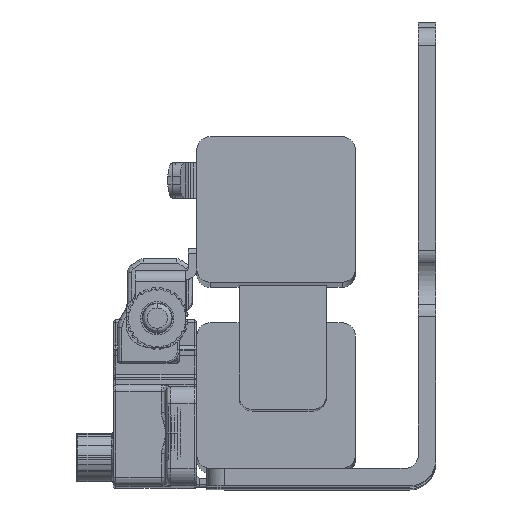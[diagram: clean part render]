
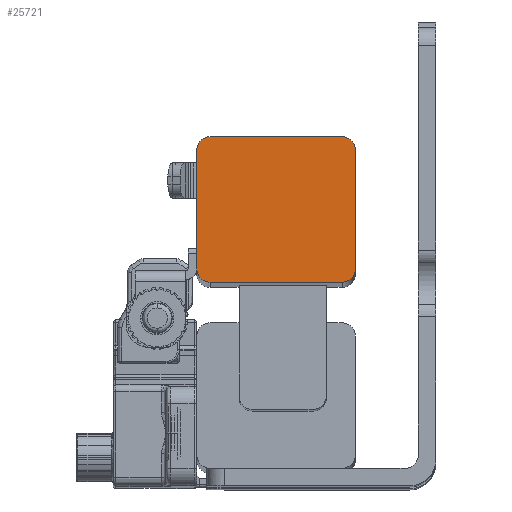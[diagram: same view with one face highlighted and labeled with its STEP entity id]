
A CAD part, top view. The second image highlights one B-rep face of the part: STEP entity #25721.
In plain terms, the highlighted planar face has unit normal (0, 0, 1).
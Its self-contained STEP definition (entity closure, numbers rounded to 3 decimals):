
#712 = VERTEX_POINT ( 'NONE', #54537 ) ;
#1023 = CARTESIAN_POINT ( 'NONE',  ( 7.5, 8.25, 343.1 ) ) ;
#1380 = CARTESIAN_POINT ( 'NONE',  ( -7.51, 6.76, 343.1 ) ) ;
#2066 = VECTOR ( 'NONE', #37716, 1000. ) ;
#2482 = CARTESIAN_POINT ( 'NONE',  ( -9., 6.75, 343.1 ) ) ;
#4916 = ORIENTED_EDGE ( 'NONE', *, *, #23820, .T. ) ;
#6080 = CARTESIAN_POINT ( 'NONE',  ( 7.5, -6.75, 343.1 ) ) ;
#6090 = DIRECTION ( 'NONE',  ( 1., 0., 0. ) ) ;
#7138 = CARTESIAN_POINT ( 'NONE',  ( -9., 8.25, 343.1 ) ) ;
#7451 = AXIS2_PLACEMENT_3D ( 'NONE', #6080, #59537, #48455 ) ;
#10341 = AXIS2_PLACEMENT_3D ( 'NONE', #12262, #38993, #48411 ) ;
#10926 = CARTESIAN_POINT ( 'NONE',  ( -7.5, 8.25, 343.1 ) ) ;
#10938 = CIRCLE ( 'NONE', #46451, 1.5 ) ;
#11616 = LINE ( 'NONE', #59860, #24340 ) ;
#12081 = VERTEX_POINT ( 'NONE', #10926 ) ;
#12262 = CARTESIAN_POINT ( 'NONE',  ( 7.5, 6.75, 343.1 ) ) ;
#12475 = VERTEX_POINT ( 'NONE', #13983 ) ;
#13503 = FACE_OUTER_BOUND ( 'NONE', #49376, .T. ) ;
#13983 = CARTESIAN_POINT ( 'NONE',  ( 9., -6.75, 343.1 ) ) ;
#16111 = VERTEX_POINT ( 'NONE', #57473 ) ;
#16831 = CARTESIAN_POINT ( 'NONE',  ( -7.5, -8.25, 343.1 ) ) ;
#17708 = ORIENTED_EDGE ( 'NONE', *, *, #54750, .T. ) ;
#18895 = CARTESIAN_POINT ( 'NONE',  ( -9., -6.75, 343.1 ) ) ;
#20034 = CARTESIAN_POINT ( 'NONE',  ( -9., 8.25, 343.1 ) ) ;
#20380 = CARTESIAN_POINT ( 'NONE',  ( -7.5, -8.25, 343.1 ) ) ;
#21438 = CIRCLE ( 'NONE', #10341, 1.5 ) ;
#21678 = VERTEX_POINT ( 'NONE', #2482 ) ;
#21867 = CIRCLE ( 'NONE', #7451, 1.5 ) ;
#22475 = VERTEX_POINT ( 'NONE', #1023 ) ;
#22552 = PLANE ( 'NONE',  #58563 ) ;
#22577 = ORIENTED_EDGE ( 'NONE', *, *, #51599, .T. ) ;
#23569 = DIRECTION ( 'NONE',  ( 1., 0., 0. ) ) ;
#23820 = EDGE_CURVE ( 'NONE', #16111, #12475, #21867, .T. ) ;
#24340 = VECTOR ( 'NONE', #32770, 1000. ) ;
#25721 = ADVANCED_FACE ( 'NONE', ( #13503 ), #22552, .T. ) ;
#26019 = VERTEX_POINT ( 'NONE', #18895 ) ;
#26336 = EDGE_CURVE ( 'NONE', #26019, #48679, #10938, .T. ) ;
#27008 = ORIENTED_EDGE ( 'NONE', *, *, #32166, .T. ) ;
#27176 = AXIS2_PLACEMENT_3D ( 'NONE', #63751, #47787, #36653 ) ;
#32166 = EDGE_CURVE ( 'NONE', #22475, #12081, #41587, .T. ) ;
#32770 = DIRECTION ( 'NONE',  ( 0., 1., 0. ) ) ;
#33505 = LINE ( 'NONE', #7138, #2066 ) ;
#33986 = DIRECTION ( 'NONE',  ( 0., 0., 1. ) ) ;
#34577 = EDGE_CURVE ( 'NONE', #712, #22475, #21438, .T. ) ;
#36597 = DIRECTION ( 'NONE',  ( 0., 0., 1. ) ) ;
#36653 = DIRECTION ( 'NONE',  ( 1., 0., 0. ) ) ;
#37716 = DIRECTION ( 'NONE',  ( 0., -1., 0. ) ) ;
#38993 = DIRECTION ( 'NONE',  ( 0., 0., 1. ) ) ;
#40064 = ORIENTED_EDGE ( 'NONE', *, *, #34577, .T. ) ;
#40451 = VECTOR ( 'NONE', #6090, 1000. ) ;
#41587 = LINE ( 'NONE', #20034, #64761 ) ;
#41634 = CIRCLE ( 'NONE', #27176, 1.5 ) ;
#41836 = CARTESIAN_POINT ( 'NONE',  ( -7.5, -6.75, 343.1 ) ) ;
#46451 = AXIS2_PLACEMENT_3D ( 'NONE', #41836, #36597, #57784 ) ;
#47787 = DIRECTION ( 'NONE',  ( 0., 0., 1. ) ) ;
#48411 = DIRECTION ( 'NONE',  ( 1., 0., 0. ) ) ;
#48455 = DIRECTION ( 'NONE',  ( 1., 0., 0. ) ) ;
#48679 = VERTEX_POINT ( 'NONE', #20380 ) ;
#49376 = EDGE_LOOP ( 'NONE', ( #59891, #64349, #22577, #4916, #54439, #40064, #27008, #17708 ) ) ;
#51599 = EDGE_CURVE ( 'NONE', #48679, #16111, #53666, .T. ) ;
#53666 = LINE ( 'NONE', #16831, #40451 ) ;
#54439 = ORIENTED_EDGE ( 'NONE', *, *, #64763, .T. ) ;
#54537 = CARTESIAN_POINT ( 'NONE',  ( 9., 6.75, 343.1 ) ) ;
#54750 = EDGE_CURVE ( 'NONE', #12081, #21678, #41634, .T. ) ;
#57473 = CARTESIAN_POINT ( 'NONE',  ( 7.5, -8.25, 343.1 ) ) ;
#57784 = DIRECTION ( 'NONE',  ( 1., 0., 0. ) ) ;
#58563 = AXIS2_PLACEMENT_3D ( 'NONE', #1380, #33986, #23569 ) ;
#59537 = DIRECTION ( 'NONE',  ( 0., 0., 1. ) ) ;
#59860 = CARTESIAN_POINT ( 'NONE',  ( 9., 6.75, 343.1 ) ) ;
#59891 = ORIENTED_EDGE ( 'NONE', *, *, #63839, .T. ) ;
#63751 = CARTESIAN_POINT ( 'NONE',  ( -7.5, 6.75, 343.1 ) ) ;
#63839 = EDGE_CURVE ( 'NONE', #21678, #26019, #33505, .T. ) ;
#64349 = ORIENTED_EDGE ( 'NONE', *, *, #26336, .T. ) ;
#64761 = VECTOR ( 'NONE', #68663, 1000. ) ;
#64763 = EDGE_CURVE ( 'NONE', #12475, #712, #11616, .T. ) ;
#68663 = DIRECTION ( 'NONE',  ( -1., 0., 0. ) ) ;
